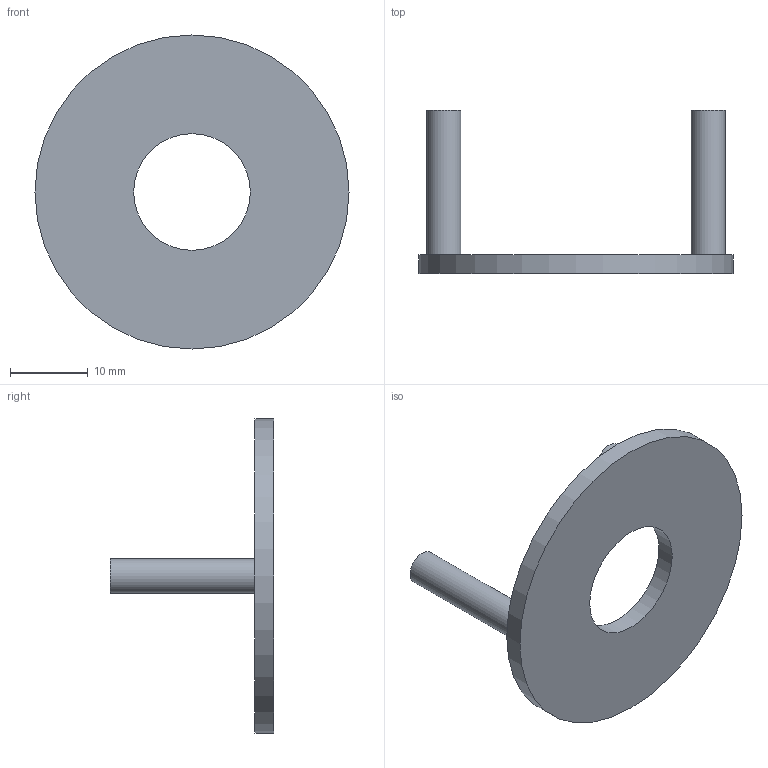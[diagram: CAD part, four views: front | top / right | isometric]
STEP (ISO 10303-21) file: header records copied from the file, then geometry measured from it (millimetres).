
FILE_DESCRIPTION(('Open CASCADE Model'),'2;1');
FILE_NAME('Open CASCADE Shape Model','2026-10-20T14:20:54',('Author'),( 'Open CASCADE'),'Open CASCADE STEP processor 7.8','Open CASCADE 7.8' ,'Unknown');
FILE_SCHEMA(('AUTOMOTIVE_DESIGN { 1 0 10303 214 1 1 1 1 }'));
Length unit declared in the file: millimetre
Products named in the file (1): Open CASCADE STEP translator 7.8 8
Bounding box: 40.4 x 21 x 40.4 mm (x, y, z)
Volume: 3172.3 mm3; surface area: 3244.1 mm2
Topology: 1 solids, 1 shells, 12 faces, 18 edges, 12 vertices
Faces by surface type: cylinder 6, plane 6
Full cylindrical faces by diameter (mm): 1.8 x2, 4.4 x2, 15 x1, 40.4 x1
Entity records: 522 total; most frequent: DIRECTION 92, CARTESIAN_POINT 79, ORIENTED_EDGE 36, PCURVE 36, DEFINITIONAL_REPRESENTATION 36, LINE 30, VECTOR 30, AXIS2_PLACEMENT_3D 25
